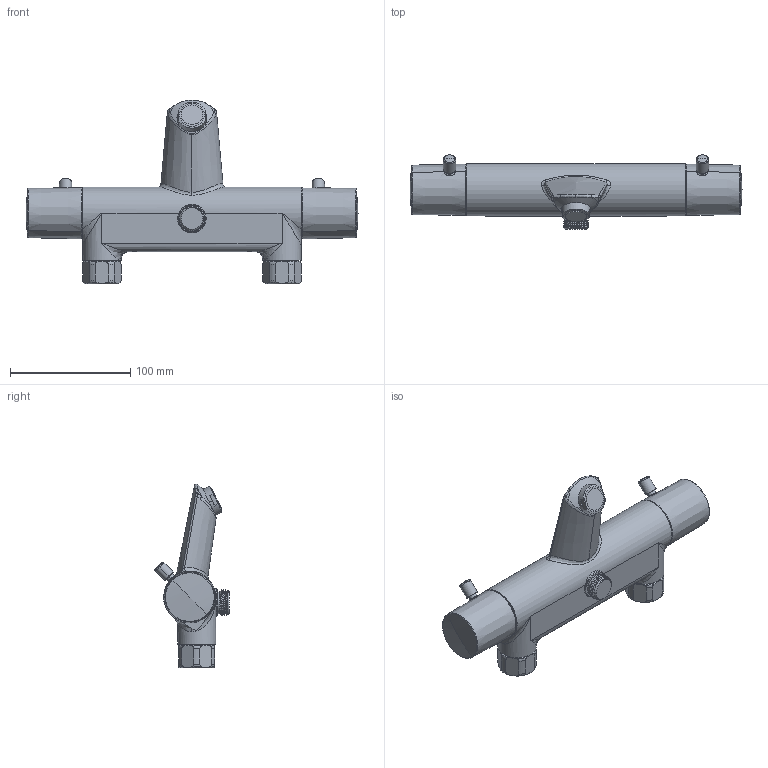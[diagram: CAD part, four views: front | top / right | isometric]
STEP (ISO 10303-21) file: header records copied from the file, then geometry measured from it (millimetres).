
FILE_DESCRIPTION((''),'2;1');
FILE_NAME('57551--00','2026-09-10T13:28:05',('simi1'),(''),'CREO PARAMETRIC BY PTC INC, 2022244','CREO PARAMETRIC BY PTC INC, 2022244','');
FILE_SCHEMA(('AUTOMOTIVE_DESIGN { 1 0 10303 214 1 1 1 1 }'));
Length unit declared in the file: millimetre
Products named in the file (1): 57551--00
Bounding box: 276.3 x 61.87 x 153.01 mm (x, y, z)
Surface area: 66553.8 mm2 (no closed solid volume)
Topology: 0 solids, 14 shells, 209 faces, 545 edges, 336 vertices
Faces by surface type: bspline 47, cylinder 44, torus 44, plane 36, cone 28, sphere 10
Entity records: 12421 total; most frequent: CARTESIAN_POINT 6500, ORIENTED_EDGE 1011, DIRECTION 852, EDGE_CURVE 537, AXIS2_PLACEMENT_3D 372, VERTEX_POINT 336, B_SPLINE_CURVE_WITH_KNOTS 219, CIRCLE 210
